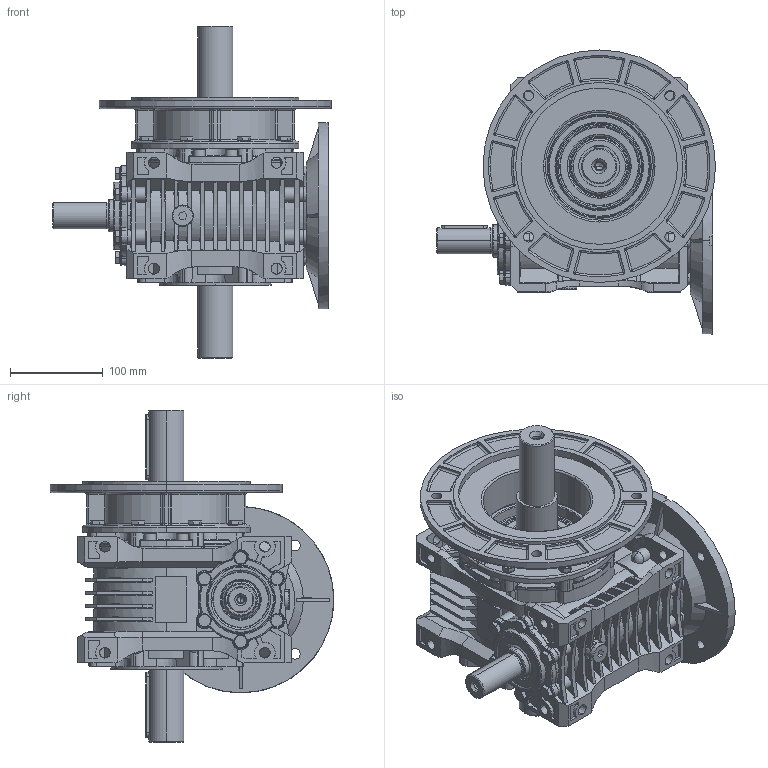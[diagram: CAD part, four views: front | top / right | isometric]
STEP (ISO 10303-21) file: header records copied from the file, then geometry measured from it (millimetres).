
FILE_DESCRIPTION (( 'STEP AP203' ), '1' );
FILE_NAME ('MR-80_200-24-WBS-K250_2-WD_2-3D.STEP', '2024-05-07T09:14:38', ( '' ), ( '' ), 'SwSTEP 2.0', 'SolidWorks 2022', '' );
FILE_SCHEMA (( 'CONFIG_CONTROL_DESIGN' ));
Products named in the file (1): MR-80_200-24-WBS-K250_2-WD_2-3D
Bounding box: 300 x 305.23 x 357 mm (x, y, z)
Volume: 5199861.5 mm3; surface area: 682102.9 mm2
Topology: 1 solids, 66 shells, 3853 faces, 9816 edges, 6096 vertices
Faces by surface type: plane 1418, cone 1031, cylinder 667, torus 351, bspline 298, sphere 88
Entity records: 129513 total; most frequent: CARTESIAN_POINT 39880, ORIENTED_EDGE 19270, DIRECTION 18335, EDGE_CURVE 9635, AXIS2_PLACEMENT_3D 7174, VERTEX_POINT 6072, EDGE_LOOP 4123, LINE 3987
